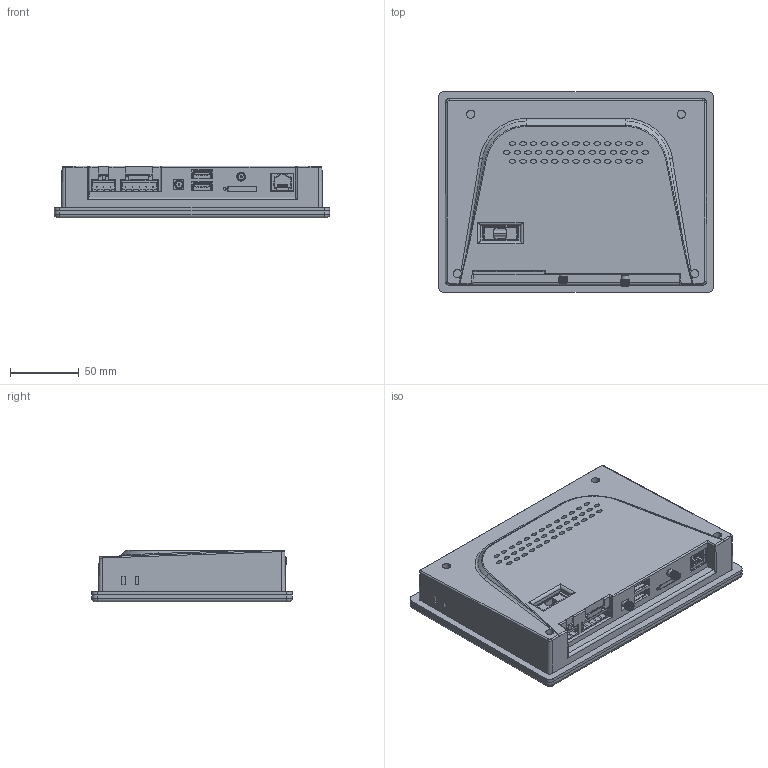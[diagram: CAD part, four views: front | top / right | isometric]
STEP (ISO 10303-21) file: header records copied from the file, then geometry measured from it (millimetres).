
FILE_DESCRIPTION (( 'STEP AP214' ), '1' );
FILE_NAME ('C7S-EW.STEP', '2022-01-06T18:39:43', ( '' ), ( '' ), 'SwSTEP 2.0', 'SolidWorks 2021', '' );
FILE_SCHEMA (( 'AUTOMOTIVE_DESIGN' ));
Length unit declared in the file: millimetre
Products named in the file (8): Fusible ZHL30-1; C7S-EW; LAN CBOX; clavija-Coolmay-3-5; User Library-Johnson Components SMA - 50 Ohm Connectors 142-0701-801; USB Host CBOX; clavija-Coolmay-3-3
Assembly tree (9 placements, depth 2):
  C7S-EW
    C7S-EW
    Fusible ZHL30-1
    LAN CBOX
    USB Host CBOX  x2
    clavija-Coolmay-3-5
    clavija-Coolmay-3-3
    User Library-Johnson Components SMA - 50 Ohm Connectors 142-0701-801  x2
Bounding box: 200 x 146 x 37.51 mm (x, y, z)
Volume: 924188.5 mm3; surface area: 140683.2 mm2
Topology: 18 solids, 18 shells, 2410 faces, 6316 edges, 4058 vertices
Faces by surface type: plane 1571, cylinder 473, bspline 194, cone 156, sphere 10, torus 6
Entity records: 74760 total; most frequent: CARTESIAN_POINT 18309, ORIENTED_EDGE 9940, DIRECTION 8407, EDGE_CURVE 4970, VECTOR 3633, LINE 3633, VERTEX_POINT 3218, AXIS2_PLACEMENT_3D 2387
